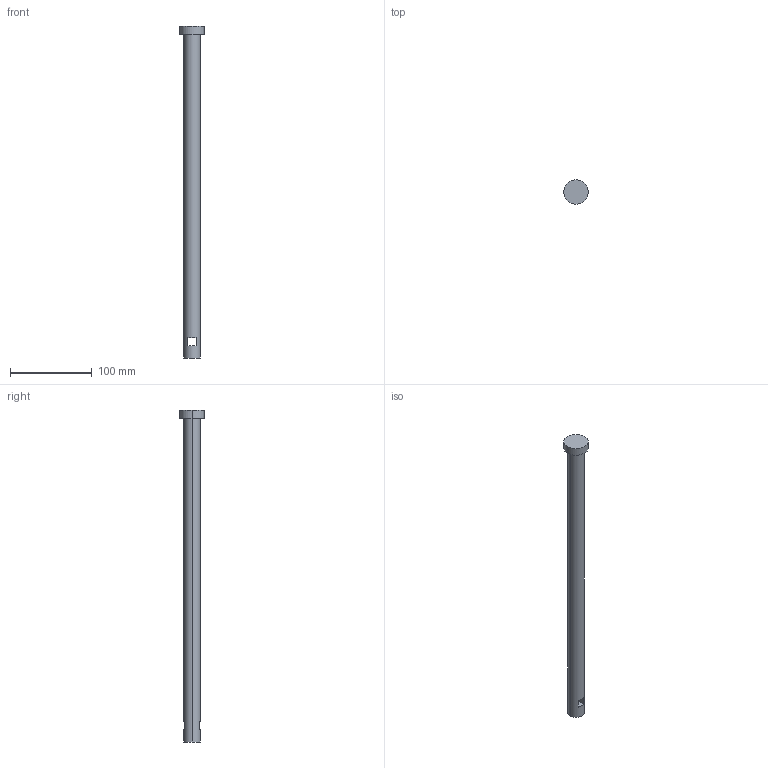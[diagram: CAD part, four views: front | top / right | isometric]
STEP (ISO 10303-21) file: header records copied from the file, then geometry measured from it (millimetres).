
FILE_DESCRIPTION (( 'STEP AP203' ), '1' );
FILE_NAME ('Eslabon3_Predeterminado_sldprt.STEP', '2024-09-30T13:48:40', ( '' ), ( '' ), 'SwSTEP 2.0', 'SolidWorks 2022', '' );
FILE_SCHEMA (( 'CONFIG_CONTROL_DESIGN' ));
Length unit declared in the file: millimetre
Products named in the file (1): Eslabon3_Predeterminado_sldprt
Bounding box: 29.68 x 29.68 x 405.6 mm (x, y, z)
Volume: 129211.9 mm3; surface area: 27686.1 mm2
Topology: 1 solids, 1 shells, 11 faces, 24 edges, 16 vertices
Faces by surface type: plane 7, cylinder 4
Entity records: 391 total; most frequent: DIRECTION 60, CARTESIAN_POINT 52, ORIENTED_EDGE 48, EDGE_CURVE 24, AXIS2_PLACEMENT_3D 24, VERTEX_POINT 16, EDGE_LOOP 14, CIRCLE 12
